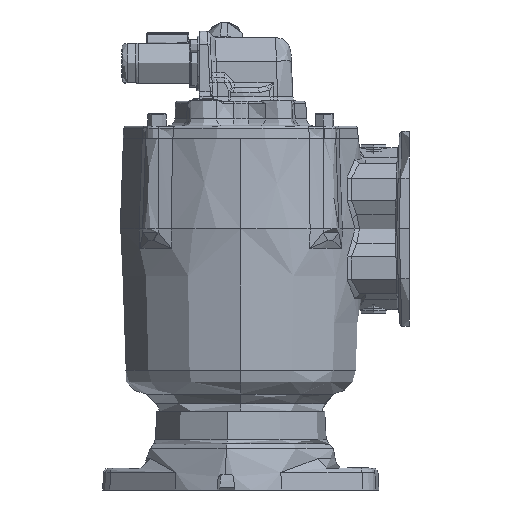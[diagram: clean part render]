
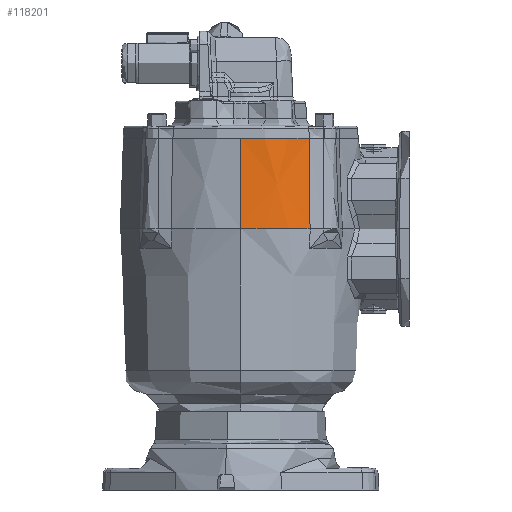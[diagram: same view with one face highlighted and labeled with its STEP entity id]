
A CAD part, left-side view. The second image highlights one B-rep face of the part: STEP entity #118201.
In plain terms, the highlighted conical face has half-angle 2 degrees and reference radius 78.232 mm.
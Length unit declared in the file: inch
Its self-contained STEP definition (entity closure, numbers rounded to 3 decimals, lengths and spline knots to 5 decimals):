
#433 = CONICAL_SURFACE ( 'NONE', #97654, 3.08, 0.035 ) ;
#628 = AXIS2_PLACEMENT_3D ( 'NONE', #12480, #155245, #66808 ) ;
#8733 = CARTESIAN_POINT ( 'NONE',  ( -3.79389, 1.59322, 0. ) ) ;
#12358 = EDGE_LOOP ( 'NONE', ( #40226, #179542, #76005, #174577 ) ) ;
#12480 = CARTESIAN_POINT ( 'NONE',  ( -1.25, 3.3296, 0. ) ) ;
#13454 = DIRECTION ( 'NONE',  ( -1., 0., 0. ) ) ;
#30785 = CARTESIAN_POINT ( 'NONE',  ( -4.33, 3.3296, 0. ) ) ;
#34015 = CIRCLE ( 'NONE', #628, 3.08 ) ;
#40226 = ORIENTED_EDGE ( 'NONE', *, *, #94457, .T. ) ;
#41028 = CARTESIAN_POINT ( 'NONE',  ( -3.74018, 1.60955, 1.53298 ) ) ;
#42865 = AXIS2_PLACEMENT_3D ( 'NONE', #162718, #90437, #13454 ) ;
#58136 = DIRECTION ( 'NONE',  ( -1., 0., 0. ) ) ;
#60905 = EDGE_CURVE ( 'NONE', #127748, #88698, #160198, .T. ) ;
#66808 = DIRECTION ( 'NONE',  ( 1., 0., 0. ) ) ;
#76005 = ORIENTED_EDGE ( 'NONE', *, *, #158153, .F. ) ;
#79243 = VERTEX_POINT ( 'NONE', #79702 ) ;
#79702 = CARTESIAN_POINT ( 'NONE',  ( -3.79389, 1.59322, 0. ) ) ;
#88698 = VERTEX_POINT ( 'NONE', #101427 ) ;
#90437 = DIRECTION ( 'NONE',  ( 0., 0., -1. ) ) ;
#92577 = B_SPLINE_CURVE_WITH_KNOTS ( 'NONE', 3,
 ( #8733, #171315, #41028, #99053 ),
 .UNSPECIFIED., .F., .F.,
 ( 4, 4 ),
 ( 0., 1. ),
 .UNSPECIFIED. ) ;
#94457 = EDGE_CURVE ( 'NONE', #171093, #127748, #124870, .T. ) ;
#94888 = VECTOR ( 'NONE', #147773, 39.37008 ) ;
#97654 = AXIS2_PLACEMENT_3D ( 'NONE', #187505, #116148, #58136 ) ;
#99053 = CARTESIAN_POINT ( 'NONE',  ( -3.71437, 1.61717, 2.2645 ) ) ;
#101427 = CARTESIAN_POINT ( 'NONE',  ( -4.33, 3.3296, 0. ) ) ;
#112849 = CARTESIAN_POINT ( 'NONE',  ( -4.25092, 3.3296, 2.2645 ) ) ;
#116148 = DIRECTION ( 'NONE',  ( 0., 0., -1. ) ) ;
#118201 = ADVANCED_FACE ( 'NONE', ( #158024 ), #433, .T. ) ;
#124870 = CIRCLE ( 'NONE', #42865, 3.00092 ) ;
#127748 = VERTEX_POINT ( 'NONE', #112849 ) ;
#128147 = EDGE_CURVE ( 'NONE', #79243, #171093, #92577, .T. ) ;
#147773 = DIRECTION ( 'NONE',  ( -0.035, 0., -0.999 ) ) ;
#155245 = DIRECTION ( 'NONE',  ( 0., 0., -1. ) ) ;
#157525 = CARTESIAN_POINT ( 'NONE',  ( -3.71437, 1.61717, 2.2645 ) ) ;
#158024 = FACE_OUTER_BOUND ( 'NONE', #12358, .T. ) ;
#158153 = EDGE_CURVE ( 'NONE', #79243, #88698, #34015, .T. ) ;
#160198 = LINE ( 'NONE', #30785, #94888 ) ;
#162718 = CARTESIAN_POINT ( 'NONE',  ( -1.25, 3.3296, 2.2645 ) ) ;
#171093 = VERTEX_POINT ( 'NONE', #157525 ) ;
#171315 = CARTESIAN_POINT ( 'NONE',  ( -3.76669, 1.60156, 0.77814 ) ) ;
#174577 = ORIENTED_EDGE ( 'NONE', *, *, #128147, .T. ) ;
#179542 = ORIENTED_EDGE ( 'NONE', *, *, #60905, .T. ) ;
#187505 = CARTESIAN_POINT ( 'NONE',  ( -1.25, 3.3296, 0. ) ) ;
